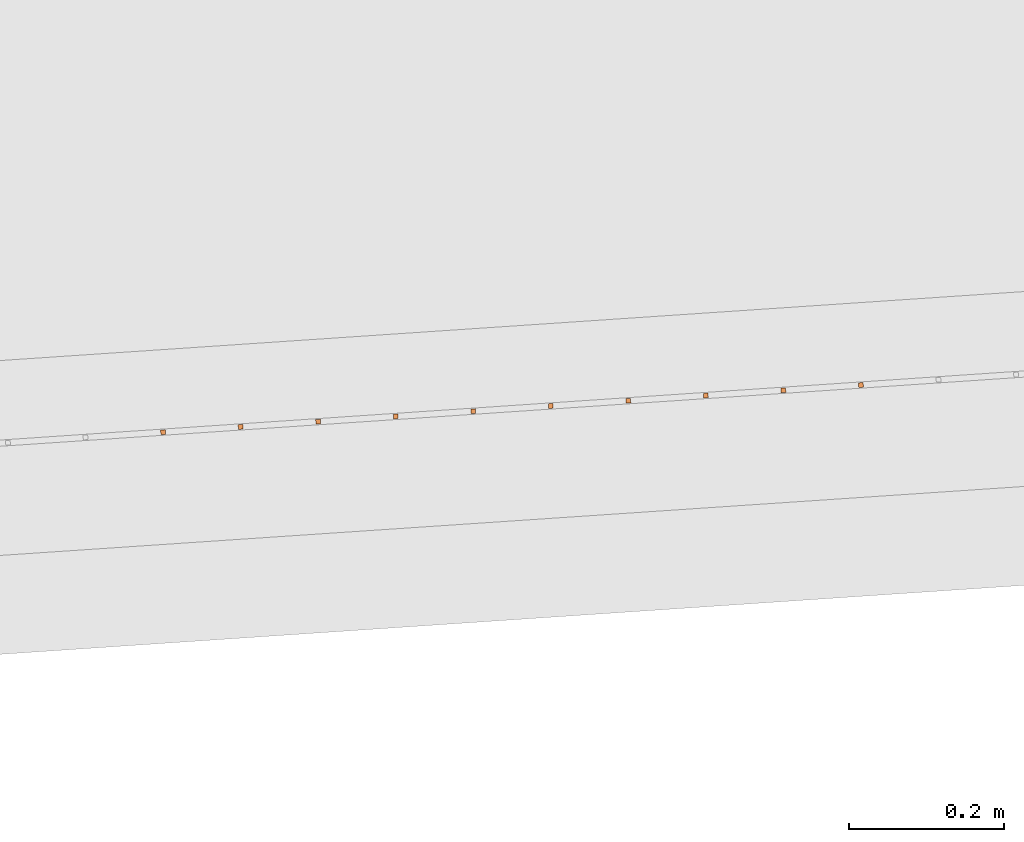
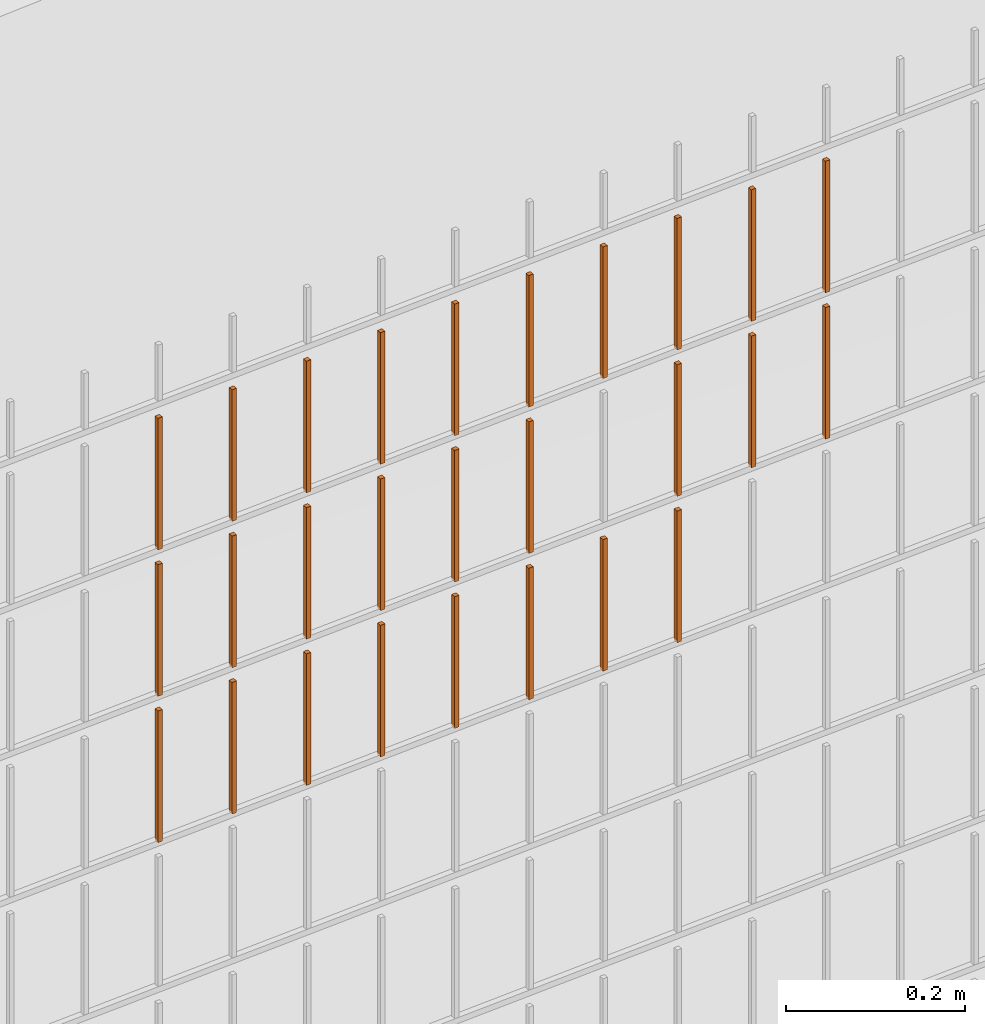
# One storey, part 327 of 1809: 27 proxies, 1 element without a shape of its own.
"""IFC2X3 building model written with IfcOpenShell, lengths in millimetres."""

from ifc_helpers import new_model, entity, si_unit, converted_unit, derived_unit, money_unit, direction, frame, origin_with_axes, place, context, subcontext, project, spatial, faceted_brep, source, transform, mapped, material, type_object, element, aggregate, save


model = new_model("IFC2X3")

# Units and contexts
model_context = context("Model", 3, precision=0.01, world=origin_with_axes(), true_north=direction((0.0, 1.0)))
body_context = subcontext(model_context, "Body", "Model", "MODEL_VIEW")
ifc_project = project(units=[si_unit("LENGTHUNIT", "METRE", prefix="MILLI"), si_unit("AREAUNIT", "SQUARE_METRE"), si_unit("VOLUMEUNIT", "CUBIC_METRE"), converted_unit("PLANEANGLEUNIT", "DEGREE", entity("IfcPlaneAngleMeasure", 0.0174532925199), si_unit("PLANEANGLEUNIT", "RADIAN"), dimensions=[0, 0, 0, 0, 0, 0, 0]), si_unit("SOLIDANGLEUNIT", "STERADIAN"), money_unit("EUR"), converted_unit("TIMEUNIT", "Year", entity("IfcTimeMeasure", 31556926.0), si_unit("TIMEUNIT", "SECOND"), dimensions=[0, 0, 1, 0, 0, 0, 0]), si_unit("MASSUNIT", "GRAM", prefix="KILO"), si_unit("THERMODYNAMICTEMPERATUREUNIT", "DEGREE_CELSIUS"), si_unit("LUMINOUSINTENSITYUNIT", "LUMEN"), si_unit("ENERGYUNIT", "JOULE", prefix="MEGA"), derived_unit("THERMALCONDUCTANCEUNIT", [(si_unit("POWERUNIT", "WATT"), 1), (si_unit("LENGTHUNIT", "METRE"), -1), (si_unit("THERMODYNAMICTEMPERATUREUNIT", "KELVIN"), -1)]), derived_unit("SPECIFICHEATCAPACITYUNIT", [(si_unit("ENERGYUNIT", "JOULE"), 1), (si_unit("MASSUNIT", "GRAM", prefix="KILO"), -1), (si_unit("THERMODYNAMICTEMPERATUREUNIT", "KELVIN"), -1)]), derived_unit("MASSDENSITYUNIT", [(si_unit("MASSUNIT", "GRAM", prefix="KILO"), 1), (si_unit("VOLUMEUNIT", "CUBIC_METRE"), -1)])], contexts=[model_context])

# Site, building, storey
site_placement = place(None, origin_with_axes())
site = spatial("IfcSite", under=ifc_project, at=site_placement, Name="Politse- ja Piirivalveameti ning Päästeameti ühishoone", CompositionType="ELEMENT")
building_placement = place(site_placement, origin_with_axes())
building = spatial("IfcBuilding", under=site, at=building_placement, Name="Politse- ja Piirivalveameti ning Päästeameti ühishoone", CompositionType="ELEMENT")
storey_placement = place(building_placement, origin_with_axes())
storey = spatial("IfcBuildingStorey", under=building, at=storey_placement, Name="Esimene korrus", CompositionType="ELEMENT", Elevation=0.0)

# Proxies
building_element_proxy_type_1 = type_object("IfcBuildingElementProxyType", Name="Railing Type", PredefinedType="NOTDEFINED")
proxy_1_placement = place(storey_placement, frame((89252.001212, -29183.4766571, 203.661247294), z_axis=(0.0, 0.0, 1.0), x_axis=(1.0, 0.0, 0.0)))
proxy_1 = element("IfcBuildingElementProxy", 1, at=proxy_1_placement, inside=storey, type_object=building_element_proxy_type_1, Name="PIIRDEAED")
ifc_material = material(Name="ET-03_Raud")
building_element_proxy_type_2 = type_object("IfcBuildingElementProxyType", Name="IfcBuildingElementProxy", PredefinedType="NOTDEFINED")
shared_shape_1 = source(origin_with_axes(), body_context, "Body", "Brep", [
    faceted_brep([(3.0, 3.0, -0.000752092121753), (-3.0, 3.0, -0.000752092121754), (-3.0, 3.0, 179.99926046), (3.0, 3.0, 179.99926046), (3.0, -3.0, 0.000752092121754), (-3.0, -3.0, 0.000752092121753), (-3.0, -3.0, 180.000764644), (3.0, -3.0, 180.000764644)], [[[0, 1, 2, 3]], [[0, 4, 5, 1]], [[1, 5, 6, 2]], [[3, 2, 6, 7]], [[4, 0, 3, 7]], [[5, 4, 7, 6]]]),
])
proxy_2_placement = place(proxy_1_placement, frame((-36144.3276896, -19739.1876933, 1818.15244997), z_axis=(0.0, 0.0, 1.0), x_axis=(1.0, 0.0, 0.0)))
proxy_2 = element("IfcBuildingElementProxy", 2, at=proxy_2_placement, type_object=building_element_proxy_type_2, material=ifc_material, Name="BALUSTER - 001", context=body_context, shape_type="MappedRepresentation", body=[
    mapped(shared_shape_1, transform((0.0, 0.0, 0.0), x_axis=(-0.0673926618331, 0.997726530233, 0.0), y_axis=(-0.997726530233, -0.0673926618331, 0.0), z_axis=(0.0, 0.0, 1.0))),
])
shared_shape_2 = source(origin_with_axes(), body_context, "Body", "Brep", [
    faceted_brep([(3.0, 3.0, -0.000752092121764), (-3.0, 3.0, -0.000752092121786), (-3.0, 3.0, 179.99926046), (3.0, 3.0, 179.99926046), (3.0, -3.0, 0.000752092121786), (-3.0, -3.0, 0.000752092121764), (-3.0, -3.0, 180.000764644), (3.0, -3.0, 180.000764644)], [[[0, 1, 2, 3]], [[0, 4, 5, 1]], [[1, 5, 6, 2]], [[3, 2, 6, 7]], [[4, 0, 3, 7]], [[5, 4, 7, 6]]]),
])
proxy_3_placement = place(proxy_1_placement, frame((-36044.5550366, -19732.4484271, 1818.17751971), z_axis=(0.0, 0.0, 1.0), x_axis=(1.0, 0.0, 0.0)))
proxy_3 = element("IfcBuildingElementProxy", 3, at=proxy_3_placement, type_object=building_element_proxy_type_2, material=ifc_material, Name="BALUSTER - 001", context=body_context, shape_type="MappedRepresentation", body=[
    mapped(shared_shape_2, transform((0.0, 0.0, 0.0), x_axis=(-0.0673926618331, 0.997726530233, 0.0), y_axis=(-0.997726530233, -0.0673926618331, 0.0), z_axis=(0.0, 0.0, 1.0))),
])
shared_shape_3 = source(origin_with_axes(), body_context, "Body", "Brep", [
    faceted_brep([(3.0, 3.0, -0.000752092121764), (-3.0, 3.0, -0.000752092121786), (-3.0, 3.0, 179.99926046), (3.0, 3.0, 179.99926046), (3.0, -3.0, 0.000752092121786), (-3.0, -3.0, 0.000752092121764), (-3.0, -3.0, 180.000764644), (3.0, -3.0, 180.000764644)], [[[0, 1, 2, 3]], [[0, 4, 5, 1]], [[1, 5, 6, 2]], [[3, 2, 6, 7]], [[4, 0, 3, 7]], [[5, 4, 7, 6]]]),
])
proxy_4_placement = place(proxy_1_placement, frame((-36044.5550366, -19732.4484271, 1418.17751971), z_axis=(0.0, 0.0, 1.0), x_axis=(1.0, 0.0, 0.0)))
proxy_4 = element("IfcBuildingElementProxy", 4, at=proxy_4_placement, type_object=building_element_proxy_type_2, material=ifc_material, Name="BALUSTER - 001", context=body_context, shape_type="MappedRepresentation", body=[
    mapped(shared_shape_3, transform((0.0, 0.0, 0.0), x_axis=(-0.0673926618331, 0.997726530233, 0.0), y_axis=(-0.997726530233, -0.0673926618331, 0.0), z_axis=(0.0, 0.0, 1.0))),
])
proxy_5_placement = place(proxy_1_placement, frame((-36044.5550366, -19732.4484271, 1618.17751971), z_axis=(0.0, 0.0, 1.0), x_axis=(1.0, 0.0, 0.0)))
proxy_5 = element("IfcBuildingElementProxy", 5, at=proxy_5_placement, type_object=building_element_proxy_type_2, material=ifc_material, Name="BALUSTER - 001", context=body_context, shape_type="MappedRepresentation", body=[
    mapped(shared_shape_3, transform((0.0, 0.0, 0.0), x_axis=(-0.0673926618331, 0.997726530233, 0.0), y_axis=(-0.997726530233, -0.0673926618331, 0.0), z_axis=(0.0, 0.0, 1.0))),
])
shared_shape_4 = source(origin_with_axes(), body_context, "Body", "Brep", [
    faceted_brep([(3.0, 3.0, -0.000752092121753), (-3.0, 3.0, -0.000752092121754), (-3.0, 3.0, 179.99926046), (3.0, 3.0, 179.99926046), (3.0, -3.0, 0.000752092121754), (-3.0, -3.0, 0.000752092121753), (-3.0, -3.0, 180.000764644), (3.0, -3.0, 180.000764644)], [[[0, 1, 2, 3]], [[0, 4, 5, 1]], [[1, 5, 6, 2]], [[3, 2, 6, 7]], [[4, 0, 3, 7]], [[5, 4, 7, 6]]]),
])
proxy_6_placement = place(proxy_1_placement, frame((-36144.3276896, -19739.1876933, 1618.15244997), z_axis=(0.0, 0.0, 1.0), x_axis=(1.0, 0.0, 0.0)))
proxy_6 = element("IfcBuildingElementProxy", 6, at=proxy_6_placement, type_object=building_element_proxy_type_2, material=ifc_material, Name="BALUSTER - 001", context=body_context, shape_type="MappedRepresentation", body=[
    mapped(shared_shape_4, transform((0.0, 0.0, 0.0), x_axis=(-0.0673926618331, 0.997726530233, 0.0), y_axis=(-0.997726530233, -0.0673926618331, 0.0), z_axis=(0.0, 0.0, 1.0))),
])
shared_shape_5 = source(origin_with_axes(), body_context, "Body", "Brep", [
    faceted_brep([(3.0, 3.0, -0.000752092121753), (-3.0, 3.0, -0.000752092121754), (-3.0, 3.0, 179.99926046), (3.0, 3.0, 179.99926046), (3.0, -3.0, 0.000752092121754), (-3.0, -3.0, 0.000752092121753), (-3.0, -3.0, 180.000764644), (3.0, -3.0, 180.000764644)], [[[0, 1, 2, 3]], [[0, 4, 5, 1]], [[1, 5, 6, 2]], [[3, 2, 6, 7]], [[4, 0, 3, 7]], [[5, 4, 7, 6]]]),
])
proxy_7_placement = place(proxy_1_placement, frame((-36144.3276896, -19739.1876933, 1418.15244997), z_axis=(0.0, 0.0, 1.0), x_axis=(1.0, 0.0, 0.0)))
proxy_7 = element("IfcBuildingElementProxy", 7, at=proxy_7_placement, type_object=building_element_proxy_type_2, material=ifc_material, Name="BALUSTER - 001", context=body_context, shape_type="MappedRepresentation", body=[
    mapped(shared_shape_5, transform((0.0, 0.0, 0.0), x_axis=(-0.0673926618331, 0.997726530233, 0.0), y_axis=(-0.997726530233, -0.0673926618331, 0.0), z_axis=(0.0, 0.0, 1.0))),
])
shared_shape_6 = source(origin_with_axes(), body_context, "Body", "Brep", [
    faceted_brep([(3.0, 3.0, -0.000752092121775), (-3.0, 3.0, -0.000752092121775), (-3.0, 3.0, 179.99926046), (3.0, 3.0, 179.99926046), (3.0, -3.0, 0.000752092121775), (-3.0, -3.0, 0.000752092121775), (-3.0, -3.0, 180.000764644), (3.0, -3.0, 180.000764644)], [[[0, 1, 2, 3]], [[0, 4, 5, 1]], [[1, 5, 6, 2]], [[3, 2, 6, 7]], [[4, 0, 3, 7]], [[5, 4, 7, 6]]]),
])
proxy_8_placement = place(proxy_1_placement, frame((-35445.9191185, -19692.01283, 1418.32793813), z_axis=(0.0, 0.0, 1.0), x_axis=(1.0, 0.0, 0.0)))
proxy_8 = element("IfcBuildingElementProxy", 8, at=proxy_8_placement, type_object=building_element_proxy_type_2, material=ifc_material, Name="BALUSTER - 001", context=body_context, shape_type="MappedRepresentation", body=[
    mapped(shared_shape_6, transform((0.0, 0.0, 0.0), x_axis=(-0.0673926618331, 0.997726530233, 0.0), y_axis=(-0.997726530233, -0.0673926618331, 0.0), z_axis=(0.0, 0.0, 1.0))),
])
shared_shape_7 = source(origin_with_axes(), body_context, "Body", "Brep", [
    faceted_brep([(3.0, 3.0, -0.000752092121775), (-3.0, 3.0, -0.000752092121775), (-3.0, 3.0, 179.99926046), (3.0, 3.0, 179.99926046), (3.0, -3.0, 0.000752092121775), (-3.0, -3.0, 0.000752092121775), (-3.0, -3.0, 180.000764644), (3.0, -3.0, 180.000764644)], [[[0, 1, 2, 3]], [[0, 4, 5, 1]], [[1, 5, 6, 2]], [[3, 2, 6, 7]], [[4, 0, 3, 7]], [[5, 4, 7, 6]]]),
])
proxy_9_placement = place(proxy_1_placement, frame((-35445.9191185, -19692.01283, 1818.32793813), z_axis=(0.0, 0.0, 1.0), x_axis=(1.0, 0.0, 0.0)))
proxy_9 = element("IfcBuildingElementProxy", 9, at=proxy_9_placement, type_object=building_element_proxy_type_2, material=ifc_material, Name="BALUSTER - 001", context=body_context, shape_type="MappedRepresentation", body=[
    mapped(shared_shape_7, transform((0.0, 0.0, 0.0), x_axis=(-0.0673926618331, 0.997726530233, 0.0), y_axis=(-0.997726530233, -0.0673926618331, 0.0), z_axis=(0.0, 0.0, 1.0))),
])
shared_shape_8 = source(origin_with_axes(), body_context, "Body", "Brep", [
    faceted_brep([(3.0, 3.0, -0.000752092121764), (-3.0, 3.0, -0.000752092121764), (-3.0, 3.0, 179.99926046), (3.0, 3.0, 179.99926046), (3.0, -3.0, 0.000752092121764), (-3.0, -3.0, 0.000752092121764), (-3.0, -3.0, 180.000764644), (3.0, -3.0, 180.000764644)], [[[0, 1, 2, 3]], [[0, 4, 5, 1]], [[1, 5, 6, 2]], [[3, 2, 6, 7]], [[4, 0, 3, 7]], [[5, 4, 7, 6]]]),
])
proxy_10_placement = place(proxy_1_placement, frame((-35745.2370775, -19712.2306285, 1818.25272892), z_axis=(0.0, 0.0, 1.0), x_axis=(1.0, 0.0, 0.0)))
proxy_10 = element("IfcBuildingElementProxy", 10, at=proxy_10_placement, type_object=building_element_proxy_type_2, material=ifc_material, Name="BALUSTER - 001", context=body_context, shape_type="MappedRepresentation", body=[
    mapped(shared_shape_8, transform((0.0, 0.0, 0.0), x_axis=(-0.0673926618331, 0.997726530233, 0.0), y_axis=(-0.997726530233, -0.0673926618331, 0.0), z_axis=(0.0, 0.0, 1.0))),
])
shared_shape_9 = source(origin_with_axes(), body_context, "Body", "Brep", [
    faceted_brep([(3.0, 3.0, -0.000752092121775), (-3.0, 3.0, -0.000752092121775), (-3.0, 3.0, 179.99926046), (3.0, 3.0, 179.99926046), (3.0, -3.0, 0.000752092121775), (-3.0, -3.0, 0.000752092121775), (-3.0, -3.0, 180.000764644), (3.0, -3.0, 180.000764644)], [[[0, 1, 2, 3]], [[0, 4, 5, 1]], [[1, 5, 6, 2]], [[3, 2, 6, 7]], [[4, 0, 3, 7]], [[5, 4, 7, 6]]]),
])
proxy_11_placement = place(proxy_1_placement, frame((-35445.9191185, -19692.01283, 1618.32793813), z_axis=(0.0, 0.0, 1.0), x_axis=(1.0, 0.0, 0.0)))
proxy_11 = element("IfcBuildingElementProxy", 11, at=proxy_11_placement, type_object=building_element_proxy_type_2, material=ifc_material, Name="BALUSTER - 001", context=body_context, shape_type="MappedRepresentation", body=[
    mapped(shared_shape_9, transform((0.0, 0.0, 0.0), x_axis=(-0.0673926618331, 0.997726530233, 0.0), y_axis=(-0.997726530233, -0.0673926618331, 0.0), z_axis=(0.0, 0.0, 1.0))),
])
proxy_12_placement = place(proxy_1_placement, frame((-35346.1464654, -19685.2735638, 1818.35300787), z_axis=(0.0, 0.0, 1.0), x_axis=(1.0, 0.0, 0.0)))
proxy_12 = element("IfcBuildingElementProxy", 12, at=proxy_12_placement, type_object=building_element_proxy_type_2, material=ifc_material, Name="BALUSTER - 001", context=body_context, shape_type="MappedRepresentation", body=[
    mapped(shared_shape_9, transform((0.0, 0.0, 0.0), x_axis=(-0.0673926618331, 0.997726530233, 0.0), y_axis=(-0.997726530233, -0.0673926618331, 0.0), z_axis=(0.0, 0.0, 1.0))),
])
shared_shape_10 = source(origin_with_axes(), body_context, "Body", "Brep", [
    faceted_brep([(3.0, 3.0, -0.000752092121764), (-3.0, 3.0, -0.000752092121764), (-3.0, 3.0, 179.99926046), (3.0, 3.0, 179.99926046), (3.0, -3.0, 0.000752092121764), (-3.0, -3.0, 0.000752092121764), (-3.0, -3.0, 180.000764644), (3.0, -3.0, 180.000764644)], [[[0, 1, 2, 3]], [[0, 4, 5, 1]], [[1, 5, 6, 2]], [[3, 2, 6, 7]], [[4, 0, 3, 7]], [[5, 4, 7, 6]]]),
])
proxy_13_placement = place(proxy_1_placement, frame((-35745.2370775, -19712.2306285, 1618.25272892), z_axis=(0.0, 0.0, 1.0), x_axis=(1.0, 0.0, 0.0)))
proxy_13 = element("IfcBuildingElementProxy", 13, at=proxy_13_placement, type_object=building_element_proxy_type_2, material=ifc_material, Name="BALUSTER - 001", context=body_context, shape_type="MappedRepresentation", body=[
    mapped(shared_shape_10, transform((0.0, 0.0, 0.0), x_axis=(-0.0673926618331, 0.997726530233, 0.0), y_axis=(-0.997726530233, -0.0673926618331, 0.0), z_axis=(0.0, 0.0, 1.0))),
])
shared_shape_11 = source(origin_with_axes(), body_context, "Body", "Brep", [
    faceted_brep([(3.0, 3.0, -0.000752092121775), (-3.0, 3.0, -0.000752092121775), (-3.0, 3.0, 179.99926046), (3.0, 3.0, 179.99926046), (3.0, -3.0, 0.000752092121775), (-3.0, -3.0, 0.000752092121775), (-3.0, -3.0, 180.000764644), (3.0, -3.0, 180.000764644)], [[[0, 1, 2, 3]], [[0, 4, 5, 1]], [[1, 5, 6, 2]], [[3, 2, 6, 7]], [[4, 0, 3, 7]], [[5, 4, 7, 6]]]),
])
proxy_14_placement = place(proxy_1_placement, frame((-35845.0097306, -19718.9698947, 1418.22765918), z_axis=(0.0, 0.0, 1.0), x_axis=(1.0, 0.0, 0.0)))
proxy_14 = element("IfcBuildingElementProxy", 14, at=proxy_14_placement, type_object=building_element_proxy_type_2, material=ifc_material, Name="BALUSTER - 001", context=body_context, shape_type="MappedRepresentation", body=[
    mapped(shared_shape_11, transform((0.0, 0.0, 0.0), x_axis=(-0.0673926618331, 0.997726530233, 0.0), y_axis=(-0.997726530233, -0.0673926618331, 0.0), z_axis=(0.0, 0.0, 1.0))),
])
shared_shape_12 = source(origin_with_axes(), body_context, "Body", "Brep", [
    faceted_brep([(3.0, 3.0, -0.000752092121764), (-3.0, 3.0, -0.000752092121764), (-3.0, 3.0, 179.99926046), (3.0, 3.0, 179.99926046), (3.0, -3.0, 0.000752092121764), (-3.0, -3.0, 0.000752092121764), (-3.0, -3.0, 180.000764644), (3.0, -3.0, 180.000764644)], [[[0, 1, 2, 3]], [[0, 4, 5, 1]], [[1, 5, 6, 2]], [[3, 2, 6, 7]], [[4, 0, 3, 7]], [[5, 4, 7, 6]]]),
])
proxy_15_placement = place(proxy_1_placement, frame((-35745.2370775, -19712.2306285, 1418.25272892), z_axis=(0.0, 0.0, 1.0), x_axis=(1.0, 0.0, 0.0)))
proxy_15 = element("IfcBuildingElementProxy", 15, at=proxy_15_placement, type_object=building_element_proxy_type_2, material=ifc_material, Name="BALUSTER - 001", context=body_context, shape_type="MappedRepresentation", body=[
    mapped(shared_shape_12, transform((0.0, 0.0, 0.0), x_axis=(-0.0673926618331, 0.997726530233, 0.0), y_axis=(-0.997726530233, -0.0673926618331, 0.0), z_axis=(0.0, 0.0, 1.0))),
])
shared_shape_13 = source(origin_with_axes(), body_context, "Body", "Brep", [
    faceted_brep([(3.0, 3.0, -0.000752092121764), (-3.0, 3.0, -0.000752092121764), (-3.0, 3.0, 179.99926046), (3.0, 3.0, 179.99926046), (3.0, -3.0, 0.000752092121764), (-3.0, -3.0, 0.000752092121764), (-3.0, -3.0, 180.000764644), (3.0, -3.0, 180.000764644)], [[[0, 1, 2, 3]], [[0, 4, 5, 1]], [[1, 5, 6, 2]], [[3, 2, 6, 7]], [[4, 0, 3, 7]], [[5, 4, 7, 6]]]),
])
proxy_16_placement = place(proxy_1_placement, frame((-35246.3738124, -19678.5342976, 1818.37807761), z_axis=(0.0, 0.0, 1.0), x_axis=(1.0, 0.0, 0.0)))
proxy_16 = element("IfcBuildingElementProxy", 16, at=proxy_16_placement, type_object=building_element_proxy_type_2, material=ifc_material, Name="BALUSTER - 001", context=body_context, shape_type="MappedRepresentation", body=[
    mapped(shared_shape_13, transform((0.0, 0.0, 0.0), x_axis=(-0.0673926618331, 0.997726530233, 0.0), y_axis=(-0.997726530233, -0.0673926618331, 0.0), z_axis=(0.0, 0.0, 1.0))),
])
shared_shape_14 = source(origin_with_axes(), body_context, "Body", "Brep", [
    faceted_brep([(3.0, 3.0, -0.000752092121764), (-3.0, 3.0, -0.000752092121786), (-3.0, 3.0, 179.99926046), (3.0, 3.0, 179.99926046), (3.0, -3.0, 0.000752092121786), (-3.0, -3.0, 0.000752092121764), (-3.0, -3.0, 180.000764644), (3.0, -3.0, 180.000764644)], [[[0, 1, 2, 3]], [[0, 4, 5, 1]], [[1, 5, 6, 2]], [[3, 2, 6, 7]], [[4, 0, 3, 7]], [[5, 4, 7, 6]]]),
])
proxy_17_placement = place(proxy_1_placement, frame((-35645.4644245, -19705.4913624, 1818.27779866), z_axis=(0.0, 0.0, 1.0), x_axis=(1.0, 0.0, 0.0)))
proxy_17 = element("IfcBuildingElementProxy", 17, at=proxy_17_placement, type_object=building_element_proxy_type_2, material=ifc_material, Name="BALUSTER - 001", context=body_context, shape_type="MappedRepresentation", body=[
    mapped(shared_shape_14, transform((0.0, 0.0, 0.0), x_axis=(-0.0673926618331, 0.997726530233, 0.0), y_axis=(-0.997726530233, -0.0673926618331, 0.0), z_axis=(0.0, 0.0, 1.0))),
])
shared_shape_15 = source(origin_with_axes(), body_context, "Body", "Brep", [
    faceted_brep([(3.0, 3.0, -0.000752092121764), (-3.0, 3.0, -0.000752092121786), (-3.0, 3.0, 179.99926046), (3.0, 3.0, 179.99926046), (3.0, -3.0, 0.000752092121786), (-3.0, -3.0, 0.000752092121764), (-3.0, -3.0, 180.000764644), (3.0, -3.0, 180.000764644)], [[[0, 1, 2, 3]], [[0, 4, 5, 1]], [[1, 5, 6, 2]], [[3, 2, 6, 7]], [[4, 0, 3, 7]], [[5, 4, 7, 6]]]),
])
proxy_18_placement = place(proxy_1_placement, frame((-35545.6917715, -19698.7520962, 1818.30286839), z_axis=(0.0, 0.0, 1.0), x_axis=(1.0, 0.0, 0.0)))
proxy_18 = element("IfcBuildingElementProxy", 18, at=proxy_18_placement, type_object=building_element_proxy_type_2, material=ifc_material, Name="BALUSTER - 001", context=body_context, shape_type="MappedRepresentation", body=[
    mapped(shared_shape_15, transform((0.0, 0.0, 0.0), x_axis=(-0.0673926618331, 0.997726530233, 0.0), y_axis=(-0.997726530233, -0.0673926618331, 0.0), z_axis=(0.0, 0.0, 1.0))),
])
shared_shape_16 = source(origin_with_axes(), body_context, "Body", "Brep", [
    faceted_brep([(3.0, 3.0, -0.000752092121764), (-3.0, 3.0, -0.000752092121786), (-3.0, 3.0, 179.99926046), (3.0, 3.0, 179.99926046), (3.0, -3.0, 0.000752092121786), (-3.0, -3.0, 0.000752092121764), (-3.0, -3.0, 180.000764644), (3.0, -3.0, 180.000764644)], [[[0, 1, 2, 3]], [[0, 4, 5, 1]], [[1, 5, 6, 2]], [[3, 2, 6, 7]], [[4, 0, 3, 7]], [[5, 4, 7, 6]]]),
])
proxy_19_placement = place(proxy_1_placement, frame((-35645.4644245, -19705.4913624, 1418.27779866), z_axis=(0.0, 0.0, 1.0), x_axis=(1.0, 0.0, 0.0)))
proxy_19 = element("IfcBuildingElementProxy", 19, at=proxy_19_placement, type_object=building_element_proxy_type_2, material=ifc_material, Name="BALUSTER - 001", context=body_context, shape_type="MappedRepresentation", body=[
    mapped(shared_shape_16, transform((0.0, 0.0, 0.0), x_axis=(-0.0673926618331, 0.997726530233, 0.0), y_axis=(-0.997726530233, -0.0673926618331, 0.0), z_axis=(0.0, 0.0, 1.0))),
])
proxy_20_placement = place(proxy_1_placement, frame((-35645.4644245, -19705.4913624, 1618.27779866), z_axis=(0.0, 0.0, 1.0), x_axis=(1.0, 0.0, 0.0)))
proxy_20 = element("IfcBuildingElementProxy", 20, at=proxy_20_placement, type_object=building_element_proxy_type_2, material=ifc_material, Name="BALUSTER - 001", context=body_context, shape_type="MappedRepresentation", body=[
    mapped(shared_shape_16, transform((0.0, 0.0, 0.0), x_axis=(-0.0673926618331, 0.997726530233, 0.0), y_axis=(-0.997726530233, -0.0673926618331, 0.0), z_axis=(0.0, 0.0, 1.0))),
])
shared_shape_17 = source(origin_with_axes(), body_context, "Body", "Brep", [
    faceted_brep([(3.0, 3.0, -0.000752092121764), (-3.0, 3.0, -0.000752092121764), (-3.0, 3.0, 179.99926046), (3.0, 3.0, 179.99926046), (3.0, -3.0, 0.000752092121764), (-3.0, -3.0, 0.000752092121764), (-3.0, -3.0, 180.000764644), (3.0, -3.0, 180.000764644)], [[[0, 1, 2, 3]], [[0, 4, 5, 1]], [[1, 5, 6, 2]], [[3, 2, 6, 7]], [[4, 0, 3, 7]], [[5, 4, 7, 6]]]),
])
proxy_21_placement = place(proxy_1_placement, frame((-35246.3738124, -19678.5342976, 1618.37807761), z_axis=(0.0, 0.0, 1.0), x_axis=(1.0, 0.0, 0.0)))
proxy_21 = element("IfcBuildingElementProxy", 21, at=proxy_21_placement, type_object=building_element_proxy_type_2, material=ifc_material, Name="BALUSTER - 001", context=body_context, shape_type="MappedRepresentation", body=[
    mapped(shared_shape_17, transform((0.0, 0.0, 0.0), x_axis=(-0.0673926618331, 0.997726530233, 0.0), y_axis=(-0.997726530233, -0.0673926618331, 0.0), z_axis=(0.0, 0.0, 1.0))),
])
shared_shape_18 = source(origin_with_axes(), body_context, "Body", "Brep", [
    faceted_brep([(3.0, 3.0, -0.000752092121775), (-3.0, 3.0, -0.000752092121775), (-3.0, 3.0, 179.99926046), (3.0, 3.0, 179.99926046), (3.0, -3.0, 0.000752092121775), (-3.0, -3.0, 0.000752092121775), (-3.0, -3.0, 180.000764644), (3.0, -3.0, 180.000764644)], [[[0, 1, 2, 3]], [[0, 4, 5, 1]], [[1, 5, 6, 2]], [[3, 2, 6, 7]], [[4, 0, 3, 7]], [[5, 4, 7, 6]]]),
])
proxy_22_placement = place(proxy_1_placement, frame((-35845.0097306, -19718.9698947, 1818.22765918), z_axis=(0.0, 0.0, 1.0), x_axis=(1.0, 0.0, 0.0)))
proxy_22 = element("IfcBuildingElementProxy", 22, at=proxy_22_placement, type_object=building_element_proxy_type_2, material=ifc_material, Name="BALUSTER - 001", context=body_context, shape_type="MappedRepresentation", body=[
    mapped(shared_shape_18, transform((0.0, 0.0, 0.0), x_axis=(-0.0673926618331, 0.997726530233, 0.0), y_axis=(-0.997726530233, -0.0673926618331, 0.0), z_axis=(0.0, 0.0, 1.0))),
])
shared_shape_19 = source(origin_with_axes(), body_context, "Body", "Brep", [
    faceted_brep([(3.0, 3.0, -0.000752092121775), (-3.0, 3.0, -0.000752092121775), (-3.0, 3.0, 179.99926046), (3.0, 3.0, 179.99926046), (3.0, -3.0, 0.000752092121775), (-3.0, -3.0, 0.000752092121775), (-3.0, -3.0, 180.000764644), (3.0, -3.0, 180.000764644)], [[[0, 1, 2, 3]], [[0, 4, 5, 1]], [[1, 5, 6, 2]], [[3, 2, 6, 7]], [[4, 0, 3, 7]], [[5, 4, 7, 6]]]),
])
proxy_23_placement = place(proxy_1_placement, frame((-35346.1464654, -19685.2735638, 1618.35300787), z_axis=(0.0, 0.0, 1.0), x_axis=(1.0, 0.0, 0.0)))
proxy_23 = element("IfcBuildingElementProxy", 23, at=proxy_23_placement, type_object=building_element_proxy_type_2, material=ifc_material, Name="BALUSTER - 001", context=body_context, shape_type="MappedRepresentation", body=[
    mapped(shared_shape_19, transform((0.0, 0.0, 0.0), x_axis=(-0.0673926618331, 0.997726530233, 0.0), y_axis=(-0.997726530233, -0.0673926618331, 0.0), z_axis=(0.0, 0.0, 1.0))),
])
shared_shape_20 = source(origin_with_axes(), body_context, "Body", "Brep", [
    faceted_brep([(3.0, 3.0, -0.000752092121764), (-3.0, 3.0, -0.000752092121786), (-3.0, 3.0, 179.99926046), (3.0, 3.0, 179.99926046), (3.0, -3.0, 0.000752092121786), (-3.0, -3.0, 0.000752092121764), (-3.0, -3.0, 180.000764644), (3.0, -3.0, 180.000764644)], [[[0, 1, 2, 3]], [[0, 4, 5, 1]], [[1, 5, 6, 2]], [[3, 2, 6, 7]], [[4, 0, 3, 7]], [[5, 4, 7, 6]]]),
])
proxy_24_placement = place(proxy_1_placement, frame((-35545.6917715, -19698.7520962, 1418.30286839), z_axis=(0.0, 0.0, 1.0), x_axis=(1.0, 0.0, 0.0)))
proxy_24 = element("IfcBuildingElementProxy", 24, at=proxy_24_placement, type_object=building_element_proxy_type_2, material=ifc_material, Name="BALUSTER - 001", context=body_context, shape_type="MappedRepresentation", body=[
    mapped(shared_shape_20, transform((0.0, 0.0, 0.0), x_axis=(-0.0673926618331, 0.997726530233, 0.0), y_axis=(-0.997726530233, -0.0673926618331, 0.0), z_axis=(0.0, 0.0, 1.0))),
])
shared_shape_21 = source(origin_with_axes(), body_context, "Body", "Brep", [
    faceted_brep([(3.0, 3.0, -0.000752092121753), (-3.0, 3.0, -0.000752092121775), (-3.0, 3.0, 179.99926046), (3.0, 3.0, 179.99926046), (3.0, -3.0, 0.000752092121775), (-3.0, -3.0, 0.000752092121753), (-3.0, -3.0, 180.000764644), (3.0, -3.0, 180.000764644)], [[[0, 1, 2, 3]], [[0, 4, 5, 1]], [[1, 5, 6, 2]], [[3, 2, 6, 7]], [[4, 0, 3, 7]], [[5, 4, 7, 6]]]),
])
proxy_25_placement = place(proxy_1_placement, frame((-35944.7823836, -19725.7091609, 1418.20258945), z_axis=(0.0, 0.0, 1.0), x_axis=(1.0, 0.0, 0.0)))
proxy_25 = element("IfcBuildingElementProxy", 25, at=proxy_25_placement, type_object=building_element_proxy_type_2, material=ifc_material, Name="BALUSTER - 001", context=body_context, shape_type="MappedRepresentation", body=[
    mapped(shared_shape_21, transform((0.0, 0.0, 0.0), x_axis=(-0.0673926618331, 0.997726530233, 0.0), y_axis=(-0.997726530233, -0.0673926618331, 0.0), z_axis=(0.0, 0.0, 1.0))),
])
proxy_26_placement = place(proxy_1_placement, frame((-35944.7823836, -19725.7091609, 1618.20258945), z_axis=(0.0, 0.0, 1.0), x_axis=(1.0, 0.0, 0.0)))
proxy_26 = element("IfcBuildingElementProxy", 26, at=proxy_26_placement, type_object=building_element_proxy_type_2, material=ifc_material, Name="BALUSTER - 001", context=body_context, shape_type="MappedRepresentation", body=[
    mapped(shared_shape_21, transform((0.0, 0.0, 0.0), x_axis=(-0.0673926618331, 0.997726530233, 0.0), y_axis=(-0.997726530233, -0.0673926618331, 0.0), z_axis=(0.0, 0.0, 1.0))),
])
shared_shape_22 = source(origin_with_axes(), body_context, "Body", "Brep", [
    faceted_brep([(3.0, 3.0, -0.000752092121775), (-3.0, 3.0, -0.000752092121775), (-3.0, 3.0, 179.99926046), (3.0, 3.0, 179.99926046), (3.0, -3.0, 0.000752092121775), (-3.0, -3.0, 0.000752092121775), (-3.0, -3.0, 180.000764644), (3.0, -3.0, 180.000764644)], [[[0, 1, 2, 3]], [[0, 4, 5, 1]], [[1, 5, 6, 2]], [[3, 2, 6, 7]], [[4, 0, 3, 7]], [[5, 4, 7, 6]]]),
])
proxy_27_placement = place(proxy_1_placement, frame((-35845.0097306, -19718.9698947, 1618.22765918), z_axis=(0.0, 0.0, 1.0), x_axis=(1.0, 0.0, 0.0)))
proxy_27 = element("IfcBuildingElementProxy", 27, at=proxy_27_placement, type_object=building_element_proxy_type_2, material=ifc_material, Name="BALUSTER - 001", context=body_context, shape_type="MappedRepresentation", body=[
    mapped(shared_shape_22, transform((0.0, 0.0, 0.0), x_axis=(-0.0673926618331, 0.997726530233, 0.0), y_axis=(-0.997726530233, -0.0673926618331, 0.0), z_axis=(0.0, 0.0, 1.0))),
])
shared_shape_23 = source(origin_with_axes(), body_context, "Body", "Brep", [
    faceted_brep([(3.0, 3.0, -0.000752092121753), (-3.0, 3.0, -0.000752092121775), (-3.0, 3.0, 179.99926046), (3.0, 3.0, 179.99926046), (3.0, -3.0, 0.000752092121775), (-3.0, -3.0, 0.000752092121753), (-3.0, -3.0, 180.000764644), (3.0, -3.0, 180.000764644)], [[[0, 1, 2, 3]], [[0, 4, 5, 1]], [[1, 5, 6, 2]], [[3, 2, 6, 7]], [[4, 0, 3, 7]], [[5, 4, 7, 6]]]),
])
proxy_28_placement = place(proxy_1_placement, frame((-35944.7823836, -19725.7091609, 1818.20258945), z_axis=(0.0, 0.0, 1.0), x_axis=(1.0, 0.0, 0.0)))
proxy_28 = element("IfcBuildingElementProxy", 28, at=proxy_28_placement, type_object=building_element_proxy_type_2, material=ifc_material, Name="BALUSTER - 001", context=body_context, shape_type="MappedRepresentation", body=[
    mapped(shared_shape_23, transform((0.0, 0.0, 0.0), x_axis=(-0.0673926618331, 0.997726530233, 0.0), y_axis=(-0.997726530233, -0.0673926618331, 0.0), z_axis=(0.0, 0.0, 1.0))),
])
aggregate(proxy_1, [proxy_8, proxy_24, proxy_19, proxy_15, proxy_14, proxy_25, proxy_4, proxy_7, proxy_21, proxy_23, proxy_11, proxy_20, proxy_13, proxy_27, proxy_26, proxy_5, proxy_6, proxy_16, proxy_12, proxy_9, proxy_18, proxy_17, proxy_10, proxy_22, proxy_28, proxy_3, proxy_2])

save(model, "model.ifc")
